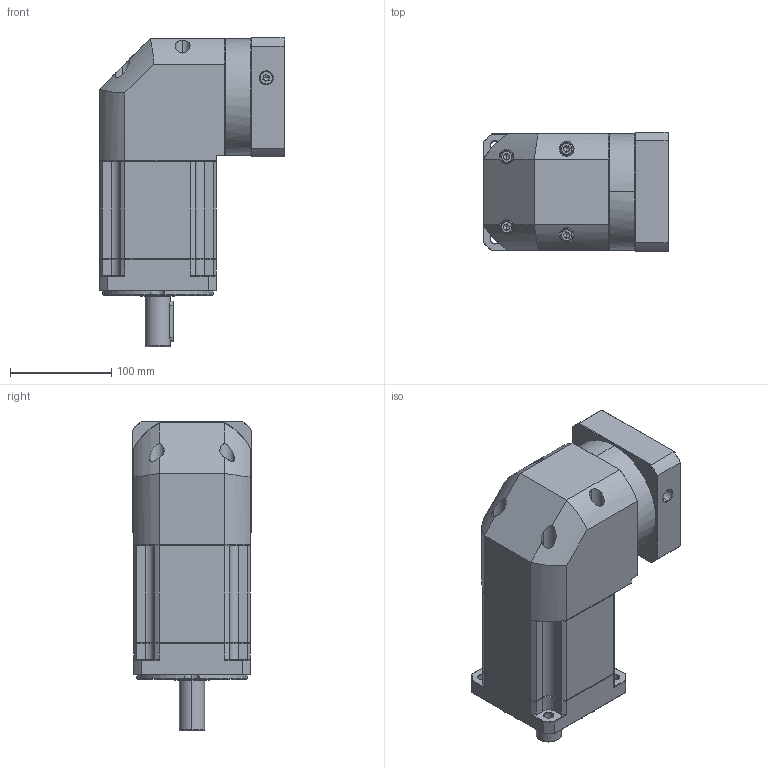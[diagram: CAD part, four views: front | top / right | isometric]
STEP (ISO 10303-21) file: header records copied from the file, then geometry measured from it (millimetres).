
FILE_DESCRIPTION (( 'STEP AP214' ), '1' );
FILE_NAME ('ZBR115A-D25-L3-P2-24-95-115-M6.step', '2023-08-26T12:35:22', ( '' ), ( '' ), 'SwSTEP 2.0', 'SolidWorks 2016', '' );
FILE_SCHEMA (( 'AUTOMOTIVE_DESIGN' ));
Length unit declared in the file: millimetre
Products named in the file (1): ZBR115A-D25-L3-P2-24-95-115-M6
Bounding box: 182.4 x 118 x 305 mm (x, y, z)
Volume: 3517922.7 mm3; surface area: 262337.1 mm2
Topology: 6 solids, 6 shells, 2366 faces, 6186 edges, 3923 vertices
Faces by surface type: plane 1138, bspline 428, cylinder 424, cone 368, torus 8
Entity records: 128213 total; most frequent: CARTESIAN_POINT 47623, ORIENTED_EDGE 12312, DIRECTION 9711, EDGE_CURVE 6156, VECTOR 3969, LINE 3969, VERTEX_POINT 3923, AXIS2_PLACEMENT_3D 2871
